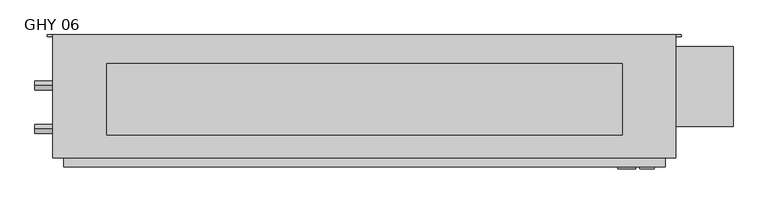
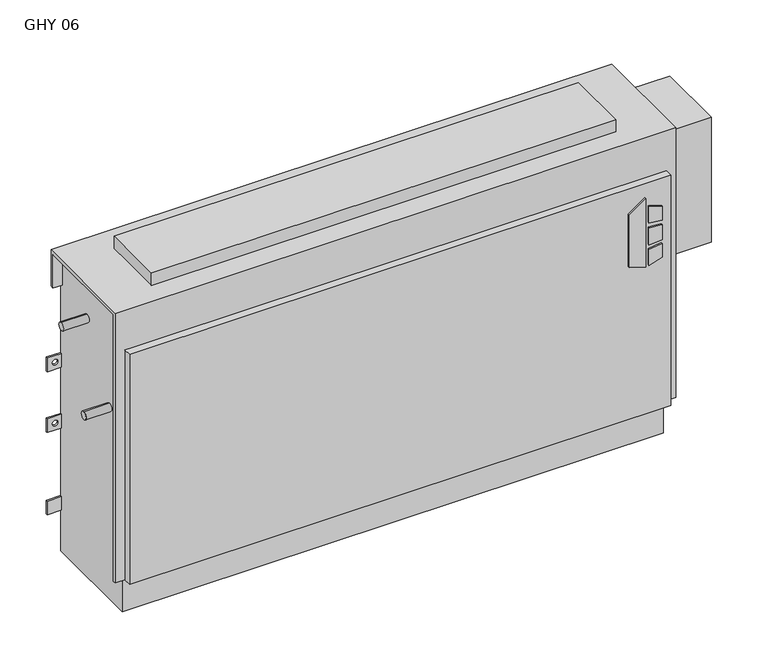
"""IFC4 building model written with IfcOpenShell, lengths in millimetres: proxy geometry, Vertical_Fan_Coil_Unit_-_GHY_-_IEC_-_2-Pipe_TS-FR_LH_2022 : GHY 06."""

from ifc_helpers import new_model, si_unit, point, frame, frame_2d, origin, place, context, project, spatial, polyline, circle_curve, trimmed, segment, composite_curve, outline, extrude, source, transform, mapped, element, save
from ifc_brep_helpers import plane_surface, revolved_surface, advanced_brep


def ghy_06_bd7a61ff(model_context):
    return source(origin(), model_context, "Body", "SolidModel", [
        extrude(outline(polyline([(391.6086829, 601.7368862), (381.6606126, 633.9102728), (523.831537, 633.9102728), (500.8095309, 601.7368862), (391.6086829, 601.7368862)])), frame((0.0, 6.35, 0.0), z_axis=(0.0, 1.0, 0.0), x_axis=(0.0, 0.0, 1.0)), (0.0, 0.0, 1.0), 3.175),
        extrude(outline(polyline([(470.6079683, 640.6686058), (467.4055757, 666.75), (496.6344168, 666.75), (504.6988318, 640.6686058), (470.6079683, 640.6686058)])), frame((0.0, 6.35, 0.0), z_axis=(0.0, 1.0, 0.0), x_axis=(0.0, 0.0, 1.0)), (0.0, 0.0, 1.0), 3.175),
        extrude(outline(polyline([(418.7444414, 666.75), (415.0789404, 640.6686058), (381.6606126, 640.6686058), (390.2948498, 666.75), (418.7444414, 666.75)])), frame((0.0, 6.35, 0.0), z_axis=(0.0, 1.0, 0.0), x_axis=(0.0, 0.0, 1.0)), (0.0, 0.0, 1.0), 3.175),
        extrude(outline(polyline([(458.0596028, 666.75), (460.3414292, 640.6686058), (424.4038806, 640.6686058), (427.1451456, 666.75), (458.0596028, 666.75)])), frame((0.0, 6.35, 0.0), z_axis=(0.0, 1.0, 0.0), x_axis=(0.0, 0.0, 1.0)), (0.0, 0.0, 1.0), 3.175),
        extrude(outline(polyline([(609.6, 193.675), (609.6, 66.675), (-304.8, 66.675), (-304.8, 193.675), (609.6, 193.675)])), frame((0.0, 0.0, 635.0), z_axis=(0.0, 0.0, 1.0), x_axis=(1.0, 0.0, 0.0)), (0.0, 0.0, 1.0), 25.4),
        extrude(outline(composite_curve([segment(trimmed(circle_curve(frame_2d((77.597, 401.574)), 7.9375), [point((77.597, 409.5115))], [point((77.597, 393.6365))], False, "CARTESIAN"), True, "CONTINUOUS"), segment(trimmed(circle_curve(frame_2d((77.597, 401.574)), 7.9375), [point((77.597, 393.6365))], [point((77.597, 409.5115))], False, "CARTESIAN"), True, "CONTINUOUS")], self_intersect=False)), frame((-431.8, 0.0, 0.0), z_axis=(1.0, 0.0, 0.0), x_axis=(0.0, 1.0, 0.0)), (0.0, 0.0, 1.0), 50.8),
        extrude(outline(composite_curve([segment(trimmed(circle_curve(frame_2d((154.559, 540.512)), 7.9375), [point((154.559, 548.4495))], [point((154.559, 532.5745))], False, "CARTESIAN"), True, "CONTINUOUS"), segment(trimmed(circle_curve(frame_2d((154.559, 540.512)), 7.9375), [point((154.559, 532.5745))], [point((154.559, 548.4495))], False, "CARTESIAN"), True, "CONTINUOUS")], self_intersect=False)), frame((-431.8, 0.0, 0.0), z_axis=(1.0, 0.0, 0.0), x_axis=(0.0, 1.0, 0.0)), (0.0, 0.0, 1.0), 50.8),
        extrude(outline(polyline([(806.45, 223.266), (806.45, 81.534), (685.8, 81.534), (685.8, 223.266), (806.45, 223.266)])), frame((0.0, 0.0, 327.025), z_axis=(0.0, 0.0, 1.0), x_axis=(1.0, 0.0, 0.0)), (0.0, 0.0, 1.0), 260.35),
        advanced_brep(
        [(704.85, 244.475, 635.0), (-400.05, 244.475, 635.0), (-400.05, 25.4, 635.0), (704.85, 25.4, 635.0), (-381.0, 244.475, 0.0), (685.8, 244.475, 0.0), (685.8, 34.925, 0.0), (-381.0, 34.925, 0.0), (704.85, 244.475, 558.8), (685.8, 244.475, 558.8), (685.8, 244.475, 414.3375), (714.375, 244.475, 414.3375), (714.375, 244.475, 385.7625), (685.8, 244.475, 385.7625), (685.8, 244.475, 287.3375), (714.375, 244.475, 287.3375), (714.375, 244.475, 258.7625), (685.8, 244.475, 258.7625), (685.8, 244.475, 141.2875), (714.375, 244.475, 141.2875), (714.375, 244.475, 112.7125), (685.8, 244.475, 112.7125), (-381.0, 244.475, 87.3125), (-409.575, 244.475, 87.3125), (-409.575, 244.475, 115.8875), (-381.0, 244.475, 115.8875), (-381.0, 244.475, 258.7625), (-409.575, 244.475, 258.7625), (-409.575, 244.475, 287.3375), (-381.0, 244.475, 287.3375), (-381.0, 244.475, 385.7625), (-409.575, 244.475, 385.7625), (-409.575, 244.475, 414.3375), (-381.0, 244.475, 414.3375), (-381.0, 244.475, 558.8), (-400.05, 244.475, 558.8), (704.0626, 244.475, 127.0), (692.9374, 244.475, 127.0), (704.0626, 244.475, 273.05), (692.9374, 244.475, 273.05), (-388.1374, 244.475, 273.05), (-399.2626, 244.475, 273.05), (704.0626, 244.475, 400.05), (692.9374, 244.475, 400.05), (-388.1374, 244.475, 400.05), (-399.2626, 244.475, 400.05), (-400.05, 238.125, 558.8), (-400.05, 238.125, 628.65), (-400.05, 31.75, 628.65), (-400.05, 31.75, 73.025), (-400.05, 25.4, 73.025), (685.8, 9.525, 552.45), (-381.0, 9.525, 552.45), (-381.0, 9.525, 73.025), (685.8, 9.525, 73.025), (704.85, 25.4, 73.025), (704.85, 31.75, 73.025), (704.85, 31.75, 628.65), (704.85, 238.125, 628.65), (704.85, 238.125, 558.8), (-381.0, 25.4, 73.025), (-381.0, 25.4, 552.45), (685.8, 25.4, 552.45), (685.8, 25.4, 73.025), (-381.0, 31.75, 73.025), (-381.0, 34.925, 73.025), (685.8, 34.925, 73.025), (685.8, 31.75, 73.025), (685.8, 241.3, 112.7125), (685.8, 241.3, 141.2875), (685.8, 241.3, 258.7625), (685.8, 241.3, 287.3375), (685.8, 241.3, 385.7625), (685.8, 241.3, 414.3375), (685.8, 238.125, 558.8), (685.8, 238.125, 628.65), (685.8, 31.75, 628.65), (-381.0, 31.75, 628.65), (-381.0, 238.125, 628.65), (-381.0, 238.125, 558.8), (-381.0, 241.3, 414.3375), (-381.0, 241.3, 385.7625), (-381.0, 241.3, 287.3375), (-381.0, 241.3, 258.7625), (-381.0, 241.3, 115.8875), (-381.0, 241.3, 87.3125), (714.375, 241.3, 112.7125), (714.375, 241.3, 141.2875), (692.9374, 241.3, 127.0), (704.0626, 241.3, 127.0), (714.375, 241.3, 258.7625), (714.375, 241.3, 287.3375), (692.9374, 241.3, 273.05), (704.0626, 241.3, 273.05), (714.375, 241.3, 385.7625), (714.375, 241.3, 414.3375), (692.9374, 241.3, 400.05), (704.0626, 241.3, 400.05), (-409.575, 241.3, 115.8875), (-409.575, 241.3, 87.3125), (-409.575, 241.3, 287.3375), (-409.575, 241.3, 258.7625), (-399.2626, 241.3, 273.05), (-388.1374, 241.3, 273.05), (-409.575, 241.3, 414.3375), (-409.575, 241.3, 385.7625), (-399.2626, 241.3, 400.05), (-388.1374, 241.3, 400.05)],
        [
            (0, 1),
            (1, 2),
            (2, 3),
            (3, 0),
            (4, 5),
            (5, 6),
            (6, 7),
            (7, 4),
            (0, 8),
            (8, 9),
            (9, 10),
            (10, 11),
            (11, 12),
            (12, 13),
            (13, 14),
            (14, 15),
            (15, 16),
            (16, 17),
            (17, 18),
            (18, 19),
            (19, 20),
            (20, 21),
            (21, 5),
            (4, 22),
            (22, 23),
            (23, 24),
            (24, 25),
            (25, 26),
            (26, 27),
            (27, 28),
            (28, 29),
            (29, 30),
            (30, 31),
            (31, 32),
            (32, 33),
            (33, 34),
            (34, 35),
            (35, 1),
            (36, 37, circle_curve(frame((698.5, 244.475, 127.0), z_axis=(0.0, -1.0, 0.0), x_axis=(-1.0, 0.0, 0.0)), 5.5626)),
            (37, 36, circle_curve(frame((698.5, 244.475, 127.0), z_axis=(0.0, -1.0, 0.0), x_axis=(-1.0, 0.0, 0.0)), 5.5626)),
            (38, 39, circle_curve(frame((698.5, 244.475, 273.05), z_axis=(0.0, -1.0, 0.0), x_axis=(-1.0, 0.0, 0.0)), 5.5626)),
            (39, 38, circle_curve(frame((698.5, 244.475, 273.05), z_axis=(0.0, -1.0, 0.0), x_axis=(-1.0, 0.0, 0.0)), 5.5626)),
            (40, 41, circle_curve(frame((-393.7, 244.475, 273.05), z_axis=(0.0, -1.0, 0.0), x_axis=(-1.0, 0.0, 0.0)), 5.5626)),
            (41, 40, circle_curve(frame((-393.7, 244.475, 273.05), z_axis=(0.0, -1.0, 0.0), x_axis=(-1.0, 0.0, 0.0)), 5.5626)),
            (42, 43, circle_curve(frame((698.5, 244.475, 400.05), z_axis=(0.0, -1.0, 0.0), x_axis=(-1.0, 0.0, 0.0)), 5.5626)),
            (43, 42, circle_curve(frame((698.5, 244.475, 400.05), z_axis=(0.0, -1.0, 0.0), x_axis=(-1.0, 0.0, 0.0)), 5.5626)),
            (44, 45, circle_curve(frame((-393.7, 244.475, 400.05), z_axis=(0.0, -1.0, 0.0), x_axis=(-1.0, 0.0, 0.0)), 5.5626)),
            (45, 44, circle_curve(frame((-393.7, 244.475, 400.05), z_axis=(0.0, -1.0, 0.0), x_axis=(-1.0, 0.0, 0.0)), 5.5626)),
            (35, 46),
            (46, 47),
            (47, 48),
            (48, 49),
            (49, 50),
            (50, 2),
            (51, 52),
            (52, 53),
            (53, 54),
            (54, 51),
            (3, 55),
            (55, 56),
            (56, 57),
            (57, 58),
            (58, 59),
            (59, 8),
            (50, 60),
            (60, 61),
            (61, 62),
            (62, 63),
            (63, 55),
            (51, 62),
            (61, 52),
            (53, 60),
            (49, 64),
            (64, 65),
            (65, 66),
            (66, 67),
            (67, 56),
            (63, 54),
            (6, 66),
            (65, 7),
            (21, 68),
            (68, 69),
            (69, 18),
            (17, 70),
            (70, 71),
            (71, 14),
            (13, 72),
            (72, 73),
            (73, 10),
            (9, 74),
            (74, 75),
            (75, 76),
            (76, 67),
            (64, 77),
            (77, 78),
            (78, 79),
            (79, 34),
            (33, 80),
            (80, 81),
            (81, 30),
            (29, 82),
            (82, 83),
            (83, 26),
            (25, 84),
            (84, 85),
            (85, 22),
            (74, 59),
            (58, 75),
            (76, 57),
            (48, 77),
            (79, 46),
            (78, 47),
            (68, 86),
            (86, 87),
            (87, 69),
            (88, 89, circle_curve(frame((698.5, 241.3, 127.0), z_axis=(0.0, 1.0, 0.0), x_axis=(-1.0, 0.0, 0.0)), 5.5626)),
            (89, 88, circle_curve(frame((698.5, 241.3, 127.0), z_axis=(0.0, 1.0, 0.0), x_axis=(-1.0, 0.0, 0.0)), 5.5626)),
            (90, 91),
            (91, 71),
            (70, 90),
            (92, 93, circle_curve(frame((698.5, 241.3, 273.05), z_axis=(0.0, 1.0, 0.0), x_axis=(-1.0, 0.0, 0.0)), 5.5626)),
            (93, 92, circle_curve(frame((698.5, 241.3, 273.05), z_axis=(0.0, 1.0, 0.0), x_axis=(-1.0, 0.0, 0.0)), 5.5626)),
            (94, 95),
            (95, 73),
            (72, 94),
            (96, 97, circle_curve(frame((698.5, 241.3, 400.05), z_axis=(0.0, 1.0, 0.0), x_axis=(-1.0, 0.0, 0.0)), 5.5626)),
            (97, 96, circle_curve(frame((698.5, 241.3, 400.05), z_axis=(0.0, 1.0, 0.0), x_axis=(-1.0, 0.0, 0.0)), 5.5626)),
            (98, 99),
            (99, 85),
            (84, 98),
            (82, 100),
            (100, 101),
            (101, 83),
            (102, 103, circle_curve(frame((-393.7, 241.3, 273.05), z_axis=(0.0, 1.0, 0.0), x_axis=(-1.0, 0.0, 0.0)), 5.5626)),
            (103, 102, circle_curve(frame((-393.7, 241.3, 273.05), z_axis=(0.0, 1.0, 0.0), x_axis=(-1.0, 0.0, 0.0)), 5.5626)),
            (104, 105),
            (105, 81),
            (80, 104),
            (106, 107, circle_curve(frame((-393.7, 241.3, 400.05), z_axis=(0.0, 1.0, 0.0), x_axis=(-1.0, 0.0, 0.0)), 5.5626)),
            (107, 106, circle_curve(frame((-393.7, 241.3, 400.05), z_axis=(0.0, 1.0, 0.0), x_axis=(-1.0, 0.0, 0.0)), 5.5626)),
            (87, 19),
            (86, 20),
            (16, 90),
            (91, 15),
            (12, 94),
            (95, 11),
            (24, 98),
            (99, 23),
            (101, 27),
            (100, 28),
            (32, 104),
            (105, 31),
            (88, 37),
            (36, 89),
            (92, 39),
            (38, 93),
            (102, 41),
            (40, 103),
            (96, 43),
            (42, 97),
            (106, 45),
            (44, 107),
        ],
        [
            plane_surface(frame((-400.05, 244.475, 635.0), z_axis=(0.0, 0.0, 1.0), x_axis=(-1.0, 0.0, 0.0))),
            plane_surface(frame((-400.05, 244.475, 0.0), z_axis=(0.0, 0.0, -1.0), x_axis=(1.0, 0.0, 0.0))),
            plane_surface(frame((704.85, 244.475, 635.0), z_axis=(0.0, 1.0, 0.0), x_axis=(0.0, 0.0, -1.0))),
            plane_surface(frame((-400.05, 244.475, 635.0), z_axis=(-1.0, 0.0, 0.0), x_axis=(0.0, 0.0, -1.0))),
            plane_surface(frame((-400.05, 9.525, 635.0), z_axis=(0.0, -1.0, 0.0), x_axis=(0.0, 0.0, -1.0))),
            plane_surface(frame((704.85, 9.525, 635.0), z_axis=(1.0, 0.0, 0.0), x_axis=(0.0, 0.0, -1.0))),
            plane_surface(frame((-654.05, 25.4, 635.0), z_axis=(0.0, -1.0, 0.0), x_axis=(1.0, 0.0, 0.0))),
            plane_surface(frame((-654.05, 25.4, 552.45), z_axis=(0.0, 0.0, 1.0), x_axis=(1.0, 0.0, 0.0))),
            plane_surface(frame((-400.05, 9.525, 73.025), z_axis=(0.0, 0.0, -1.0), x_axis=(1.0, 0.0, 0.0))),
            plane_surface(frame((-400.05, 34.925, 73.025), z_axis=(0.0, -1.0, 0.0), x_axis=(1.0, 0.0, 0.0))),
            plane_surface(frame((685.8, 25.4, 73.025), z_axis=(1.0, 0.0, 0.0), x_axis=(0.0, -1.0, 0.0))),
            plane_surface(frame((-381.0, 25.4, 552.45), z_axis=(-1.0, 0.0, 0.0), x_axis=(0.0, -1.0, 0.0))),
            plane_surface(frame((685.8, 244.475, 0.0), z_axis=(1.0, 0.0, 0.0), x_axis=(0.0, -1.0, 0.0))),
            plane_surface(frame((-381.0, 244.475, 73.025), z_axis=(-1.0, 0.0, 0.0), x_axis=(0.0, -1.0, 0.0))),
            plane_surface(frame((685.8, 238.125, 628.65), z_axis=(0.0, -1.0, 0.0), x_axis=(1.0, 0.0, 0.0))),
            plane_surface(frame((685.8, 238.125, 558.8), z_axis=(0.0, 0.0, -1.0), x_axis=(1.0, 0.0, 0.0))),
            plane_surface(frame((685.8, 31.75, 73.025), z_axis=(0.0, 1.0, 0.0), x_axis=(1.0, 0.0, 0.0))),
            plane_surface(frame((685.8, 31.75, 628.65), z_axis=(0.0, 0.0, -1.0), x_axis=(1.0, 0.0, 0.0))),
            plane_surface(frame((-381.0, 31.75, 628.65), z_axis=(0.0, 1.0, 0.0), x_axis=(-1.0, 0.0, 0.0))),
            plane_surface(frame((-381.0, 244.475, 558.8), z_axis=(0.0, 0.0, -1.0), x_axis=(-1.0, 0.0, 0.0))),
            plane_surface(frame((-381.0, 238.125, 558.8), z_axis=(0.0, -1.0, 0.0), x_axis=(-1.0, 0.0, 0.0))),
            plane_surface(frame((-381.0, 238.125, 628.65), z_axis=(0.0, 0.0, -1.0), x_axis=(-1.0, 0.0, 0.0))),
            plane_surface(frame((714.375, 241.3, 141.2875), z_axis=(0.0, -1.0, 0.0), x_axis=(-1.0, 0.0, 0.0))),
            plane_surface(frame((685.8, 244.475, 141.2875), z_axis=(0.0, 0.0, 1.0), x_axis=(0.0, -1.0, 0.0))),
            plane_surface(frame((714.375, 244.475, 141.2875), z_axis=(1.0, 0.0, 0.0), x_axis=(0.0, -1.0, 0.0))),
            plane_surface(frame((714.375, 244.475, 112.7125), z_axis=(0.0, 0.0, -1.0), x_axis=(0.0, -1.0, 0.0))),
            plane_surface(frame((714.375, 244.475, 258.7625), z_axis=(0.0, 0.0, -1.0), x_axis=(0.0, -1.0, 0.0))),
            plane_surface(frame((685.8, 244.475, 287.3375), z_axis=(0.0, 0.0, 1.0), x_axis=(0.0, -1.0, 0.0))),
            plane_surface(frame((714.375, 244.475, 287.3375), z_axis=(1.0, 0.0, 0.0), x_axis=(0.0, -1.0, 0.0))),
            plane_surface(frame((714.375, 244.475, 385.7625), z_axis=(0.0, 0.0, -1.0), x_axis=(0.0, -1.0, 0.0))),
            plane_surface(frame((685.8, 244.475, 414.3375), z_axis=(0.0, 0.0, 1.0), x_axis=(0.0, -1.0, 0.0))),
            plane_surface(frame((714.375, 244.475, 414.3375), z_axis=(1.0, 0.0, 0.0), x_axis=(0.0, -1.0, 0.0))),
            plane_surface(frame((-409.575, 244.475, 115.8875), z_axis=(0.0, 0.0, 1.0), x_axis=(0.0, -1.0, 0.0))),
            plane_surface(frame((-381.0, 244.475, 87.3125), z_axis=(0.0, 0.0, -1.0), x_axis=(0.0, -1.0, 0.0))),
            plane_surface(frame((-409.575, 244.475, 87.3125), z_axis=(-1.0, 0.0, 0.0), x_axis=(0.0, -1.0, 0.0))),
            plane_surface(frame((-381.0, 244.475, 258.7625), z_axis=(0.0, 0.0, -1.0), x_axis=(0.0, -1.0, 0.0))),
            plane_surface(frame((-409.575, 244.475, 258.7625), z_axis=(-1.0, 0.0, 0.0), x_axis=(0.0, -1.0, 0.0))),
            plane_surface(frame((-409.575, 244.475, 287.3375), z_axis=(0.0, 0.0, 1.0), x_axis=(0.0, -1.0, 0.0))),
            plane_surface(frame((-409.575, 244.475, 414.3375), z_axis=(0.0, 0.0, 1.0), x_axis=(0.0, -1.0, 0.0))),
            plane_surface(frame((-381.0, 244.475, 385.7625), z_axis=(0.0, 0.0, -1.0), x_axis=(0.0, -1.0, 0.0))),
            plane_surface(frame((-409.575, 244.475, 385.7625), z_axis=(-1.0, 0.0, 0.0), x_axis=(0.0, -1.0, 0.0))),
            revolved_surface(polyline([(692.9374, 241.3, 127.0), (692.9374, 244.475, 127.0)]), (698.5, 244.475, 127.0), (0.0, -1.0, 0.0)),
            revolved_surface(polyline([(692.9374, 241.3, 273.05), (692.9374, 244.475, 273.05)]), (698.5, 244.475, 273.05), (0.0, -1.0, 0.0)),
            revolved_surface(polyline([(-399.26259999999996, 241.3, 273.05), (-399.26259999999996, 244.475, 273.05)]), (-393.7, 244.475, 273.05), (0.0, -1.0, 0.0)),
            revolved_surface(polyline([(692.9374, 241.3, 400.05), (692.9374, 244.475, 400.05)]), (698.5, 244.475, 400.05), (0.0, -1.0, 0.0)),
            revolved_surface(polyline([(-399.26259999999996, 241.3, 400.05), (-399.26259999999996, 244.475, 400.05)]), (-393.7, 244.475, 400.05), (0.0, -1.0, 0.0)),
        ],
        [
            (0, [[1, 2, 3, 4]]),
            (1, [[5, 6, 7, 8]]),
            (2, [[-1, 9, 10, 11, 12, 13, 14, 15, 16, 17, 18, 19, 20, 21, 22, 23, -5, 24, 25, 26, 27, 28, 29, 30, 31, 32, 33, 34, 35, 36, 37, 38], [39, 40], [41, 42], [43, 44], [45, 46], [47, 48]]),
            (3, [[-2, -38, 49, 50, 51, 52, 53, 54]]),
            (4, [[55, 56, 57, 58]]),
            (5, [[-4, 59, 60, 61, 62, 63, 64, -9]]),
            (6, [[-3, -54, 65, 66, 67, 68, 69, -59]]),
            (7, [[-55, 70, -67, 71]]),
            (8, [[-57, 72, -65, -53, 73, 74, 75, 76, 77, -60, -69, 78]]),
            (9, [[-7, 79, -75, 80]]),
            (10, [[-68, -70, -58, -78]]),
            (11, [[-66, -72, -56, -71]]),
            (12, [[-6, -23, 81, 82, 83, -19, 84, 85, 86, -15, 87, 88, 89, -11, 90, 91, 92, 93, -76, -79]]),
            (13, [[-8, -80, -74, 94, 95, 96, 97, -36, 98, 99, 100, -32, 101, 102, 103, -28, 104, 105, 106, -24]]),
            (14, [[-91, 107, -63, 108]]),
            (15, [[-90, -10, -64, -107]]),
            (16, [[-93, 109, -61, -77]]),
            (17, [[-92, -108, -62, -109]]),
            (18, [[-94, -73, -52, 110]]),
            (19, [[-97, 111, -49, -37]]),
            (20, [[-96, 112, -50, -111]]),
            (21, [[-95, -110, -51, -112]]),
            (22, [[113, 114, 115, -82], [116, 117]]),
            (22, [[118, 119, -85, 120], [121, 122]]),
            (22, [[123, 124, -88, 125], [126, 127]]),
            (22, [[128, 129, -105, 130]]),
            (22, [[131, 132, 133, -102], [134, 135]]),
            (22, [[136, 137, -99, 138], [139, 140]]),
            (23, [[-115, 141, -20, -83]]),
            (24, [[-114, 142, -21, -141]]),
            (25, [[-113, -81, -22, -142]]),
            (26, [[-120, -84, -18, 143]]),
            (27, [[-119, 144, -16, -86]]),
            (28, [[-118, -143, -17, -144]]),
            (29, [[-125, -87, -14, 145]]),
            (30, [[-124, 146, -12, -89]]),
            (31, [[-123, -145, -13, -146]]),
            (32, [[-130, -104, -27, 147]]),
            (33, [[-129, 148, -25, -106]]),
            (34, [[-128, -147, -26, -148]]),
            (35, [[-133, 149, -29, -103]]),
            (36, [[-132, 150, -30, -149]]),
            (37, [[-131, -101, -31, -150]]),
            (38, [[-138, -98, -35, 151]]),
            (39, [[-137, 152, -33, -100]]),
            (40, [[-136, -151, -34, -152]]),
            (41, [[153, -39, 154, -116]]),
            (41, [[-153, -117, -154, -40]]),
            (42, [[155, -41, 156, -121]]),
            (42, [[-155, -122, -156, -42]]),
            (43, [[157, -43, 158, -134]]),
            (43, [[-157, -135, -158, -44]]),
            (44, [[159, -45, 160, -126]]),
            (44, [[-159, -127, -160, -46]]),
            (45, [[161, -47, 162, -139]]),
            (45, [[-161, -140, -162, -48]]),
        ],
    ),
    ])


if __name__ == "__main__":
    model = new_model("IFC4")
    model_context = context("Model", 3, world=origin())
    ifc_project = project(units=[si_unit("LENGTHUNIT", "METRE", prefix="MILLI")], contexts=[model_context])
    site = spatial("IfcSite", under=ifc_project)
    building = spatial("IfcBuilding", under=site)
    placement = place(None, origin())
    ghy_06_shape = ghy_06_bd7a61ff(model_context)
    element("IfcBuildingElementProxy", 1, Name="Vertical_Fan_Coil_Unit_-_GHY_-_IEC_-_2-Pipe_TS-FR_LH_2022 : GHY 06", ObjectType="Vertical_Fan_Coil_Unit_-_GHY_-_IEC_-_2-Pipe_TS-FR_LH_2022 : GHY 06", at=placement, inside=building, context=model_context, shape_type="MappedRepresentation", body=[
        mapped(ghy_06_shape, transform((0.0, 0.0, 0.0), x_axis=(1.0, 0.0, 0.0), y_axis=(0.0, 1.0, 0.0), z_axis=(0.0, 0.0, 1.0))),
    ])
    save(model, "model.ifc")
